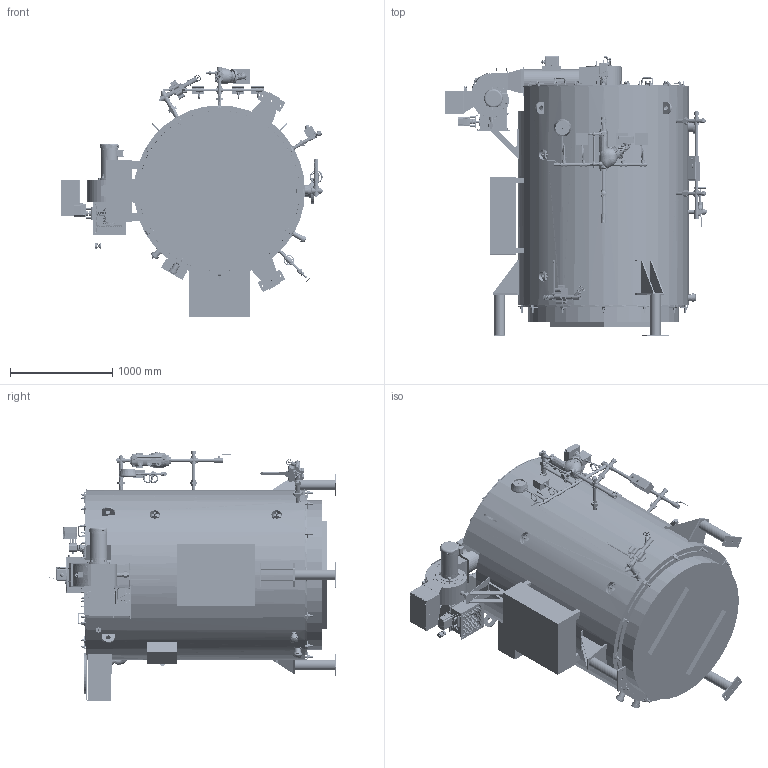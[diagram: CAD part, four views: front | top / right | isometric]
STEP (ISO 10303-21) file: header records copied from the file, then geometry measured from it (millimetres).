
FILE_DESCRIPTION(/* description */ (''),/* implementation_level */ '2;1');
FILE_NAME(/* name */ 'N:\Brandon Sherraden\Marketing\UTE\DVFT-100HP-2021.stp',/* time_stamp */ '2021-05-07T16:03:38-05:00',/* author */ ('bsherraden'),/* organization */ (''),/* preprocessor_version */ 'ST-DEVELOPER v18.1',/* originating_system */ 'Autodesk Inventor 2022',/* authorisation */ '');
FILE_SCHEMA (('AUTOMOTIVE_DESIGN { 1 0 10303 214 3 1 1 }'));
Products named in the file (118): DVFT-100HP; SHELL_100; FURNACE ASSEMBLY_100; FURNACE SHELL_100; LOWER TUBESHEET_100_1; MUD RING_100; UPPER TUBESHEET_100; TURNAROUND SHELL_100; JACKET_100_2; TOP SMOKEBOX_100; DOORS_100; WRAPPER SHEET_100; PLATE_100; Handle.0022; Lug Bent.0014; Lug Bent.00141; STACK ASSEMBLY; SIDE PLATE; FRONT PLATE; BEVEL PLATE; ASME B16.11 Coupling - Class 3000 1_2; BURNER MOUNT_100; SMOKEBOX RING_100; SUPPORT ASSEMBLY_100; LEG PLATE_100; GUSSET PLATE_100; BOTTOM LID RING_100; BOTTOM LID RING_100_1; 533-960-075_100; BOTTOM LID_100; LEG ASSEMBLY_100; BASE PLATE; TUBE; BOTTOM PLATE_100; TOP PLATE_100; LEG ATTACH PLATE_100; GUSSET PLATE_125; LOADING EYES_100; Swing Check Valve; JIS B 2051 Screwed Gate Valve - 10K 1 1_4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
Assembly tree (303 placements, depth 3):
  DVFT-100HP
    SHELL_100
    FURNACE ASSEMBLY_100
      FURNACE SHELL_100
      LOWER TUBESHEET_100_1
      MUD RING_100
      UPPER TUBESHEET_100
      TURNAROUND SHELL_100
    JACKET_100_2
    TOP SMOKEBOX_100
      DOORS_100
      WRAPPER SHEET_100
      PLATE_100
      Handle.0022  x4
      Lug Bent.0014  x12
      Lug Bent.00141  x5
      ASTM F436 - 1_2(1)  x15
      AS 2465 - 1_2  UNC(1)  x32
    STACK ASSEMBLY
      SIDE PLATE
      FRONT PLATE
      BEVEL PLATE  x2
      ASME B16.11 Coupling - Class 3000 1_2
    BURNER MOUNT_100
    SMOKEBOX RING_100
    SUPPORT ASSEMBLY_100
      GUSSET PLATE_100  x2
      LEG PLATE_100
      LEG ATTACH PLATE_100
    BOTTOM LID RING_100
      BOTTOM LID RING_100_1
      533-960-075_100  x12
    BOTTOM LID_100
    LEG ASSEMBLY_100  x3
      BASE PLATE
      GUSSET PLATE_125
      TUBE
      BOTTOM PLATE_100
      TOP PLATE_100
      LEG ATTACH PLATE_100
    LOADING EYES_100
    ASME B16.11 Coupling Threaded - Class 3000 2 x 2  x4
    ASME B36.10M Pipe with Threaded Ends 2 - Schedule 80 - 4.25  x3
    ASME B16.3 Cap With Recess - Class 300 2  x3
    ASME B16.11 Cross Threaded - Class 2000 1 1_4  x2
    Swing Check Valve
    ASME B16.11 Square Head Plug 1 1_4  x4
    JIS B 2051 Screwed Gate Valve - 10K 1 1_4
    ANSI_ASME B36.19M Pipe with Threaded Ends 1 1_4 - Schedule 80S - 2.25  x3
    ASME B16.11 Coupling Threaded - Class 3000 1 1_4 x 1 1_4  x2
    ANSI_ASME B36.19M Pipe with Threaded Ends 1 1_4 - Schedule 80S - 3
    ASME B16.5 Flange Threaded - Class 300 4
    STACK_125
    1.5 IN SAFETY VALVE
    ANSI_ASME B36.19M Pipe with Threaded Ends 2 - Schedule 80S - 6
    ASME B16.3 90 Deg Elbow - Class 300 2
    ASME B16.11 Hex Head Bushing 2 x 1 1_2
    ASME B16.3 Cap With Recess - Class 300 1 1_2
    JIS B 2051 Screwed Globe Valve - 10K 1
    SURFACE BLOWDOWN VALVE
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Bounding box: 2567.93 x 2827.22 x 2458.09 mm (x, y, z)
Volume: 1104168135.7 mm3; surface area: 98387990.2 mm2
Topology: 707 solids, 733 shells, 21533 faces, 53721 edges, 34286 vertices
Faces by surface type: plane 9821, cylinder 5921, cone 3018, bspline 1874, torus 553, sphere 346
Full cylindrical faces by diameter (mm): 1.984 x4, 2.019 x1, 2.286 x12, 2.381 x10, 2.474 x60, 2.489 x4, 2.718 x2, 3.091 x92, 3.175 x14, 3.251 x4, 3.306 x72, 3.505 x54, 3.658 x7, 3.734 x25, 3.785 x1, 3.81 x5, 4 x99, 4.039 x24, 4.166 x68, 4.2 x16, 4.216 x8, 4.369 x10, 4.445 x2, 4.521 x4, 4.572 x1, 4.701 x72, 4.762 x5, 4.763 x3, 4.775 x3, 4.826 x134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
Entity records: 997876 total; most frequent: CARTESIAN_POINT 546548, ORIENTED_EDGE 94707, DIRECTION 89803, EDGE_CURVE 47428, AXIS2_PLACEMENT_3D 33604, VERTEX_POINT 30545, LINE 22595, VECTOR 22595
